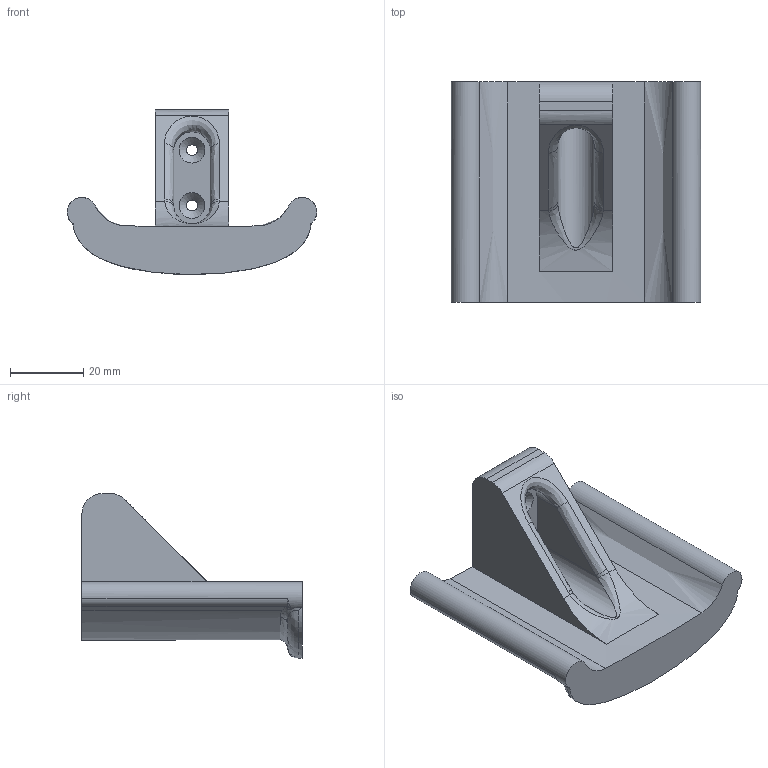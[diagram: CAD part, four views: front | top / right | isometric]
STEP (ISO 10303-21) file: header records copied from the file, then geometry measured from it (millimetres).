
FILE_DESCRIPTION(/* description */ (''),/* implementation_level */ '2;1');
FILE_NAME(/* name */ 'C:/Users/dhint/Desktop/3d/HeadphoneHolder.step',/* time_stamp */ '2021-01-06T19:42:59+01:00',/* author */ (''),/* organization */ (''),/* preprocessor_version */ 'ST-DEVELOPER v18.1',/* originating_system */ 'Autodesk Translation Framework v9.7.1.1290',/* authorisation */ '');
FILE_SCHEMA (('AUTOMOTIVE_DESIGN { 1 0 10303 214 3 1 1 }'));
Length unit declared in the file: millimetre
Products named in the file (1): HeadphoneHolder
Bounding box: 68 x 60 x 44.99 mm (x, y, z)
Volume: 40344.1 mm3; surface area: 14314.1 mm2
Topology: 1 solids, 1 shells, 47 faces, 124 edges, 77 vertices
Faces by surface type: bspline 24, plane 12, cylinder 9, cone 2
Full cylindrical faces by diameter (mm): 3 x2
Entity records: 2683 total; most frequent: CARTESIAN_POINT 1671, ORIENTED_EDGE 244, DIRECTION 138, EDGE_CURVE 122, VERTEX_POINT 77, B_SPLINE_CURVE_WITH_KNOTS 57, AXIS2_PLACEMENT_3D 54, EDGE_LOOP 51
